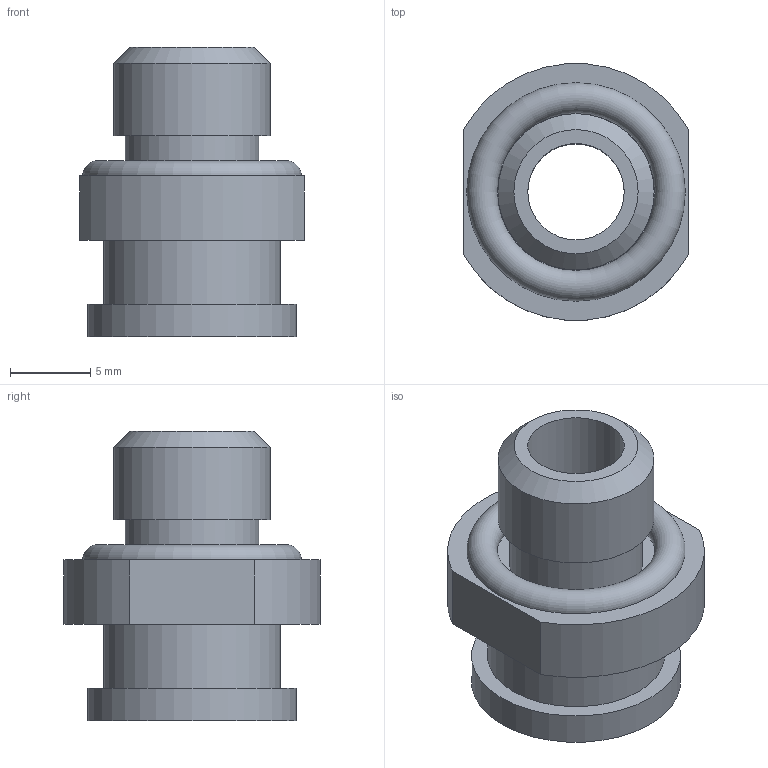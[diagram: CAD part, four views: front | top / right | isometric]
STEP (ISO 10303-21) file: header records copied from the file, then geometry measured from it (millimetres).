
FILE_DESCRIPTION(('STEP AP214'),'1');
FILE_NAME('.stp','2024-08-29T05:32:17',(' '),(' '),'Spatial InterOp 3D',' ',' ');
FILE_SCHEMA(('AUTOMOTIVE_DESIGN { 1 0 10303 214 1 1 1 1 }'));
Length unit declared in the file: millimetre
Products named in the file (2): HGL-20-G1-K; パーツ1
Assembly tree (1 placements, depth 2):
  HGL-20-G1-K
    パーツ1
Bounding box: 14 x 15.95 x 18 mm (x, y, z)
Volume: 1456.7 mm3; surface area: 1544 mm2
Topology: 1 solids, 2 shells, 21 faces, 40 edges, 27 vertices
Faces by surface type: plane 10, cylinder 8, torus 2, cone 1
Full cylindrical faces by diameter (mm): 6 x1, 8.3 x1, 9.728 x1, 11 x1, 12.5 x1, 13 x1
Entity records: 687 total; most frequent: DIRECTION 94, CARTESIAN_POINT 75, ORIENTED_EDGE 56, AXIS2_PLACEMENT_3D 43, EDGE_LOOP 38, FACE_OUTER_BOUND 29, EDGE_CURVE 28, VERTEX_POINT 24
